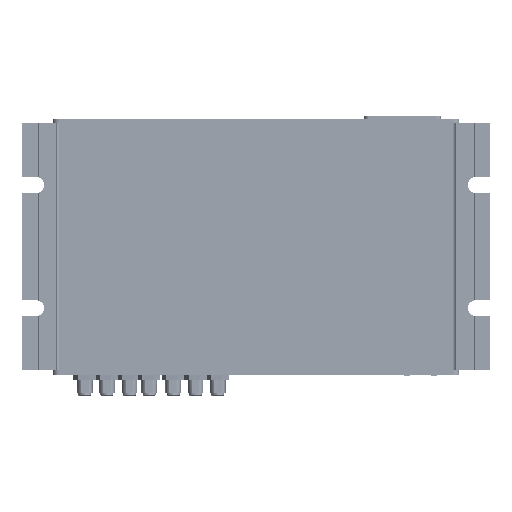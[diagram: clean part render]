
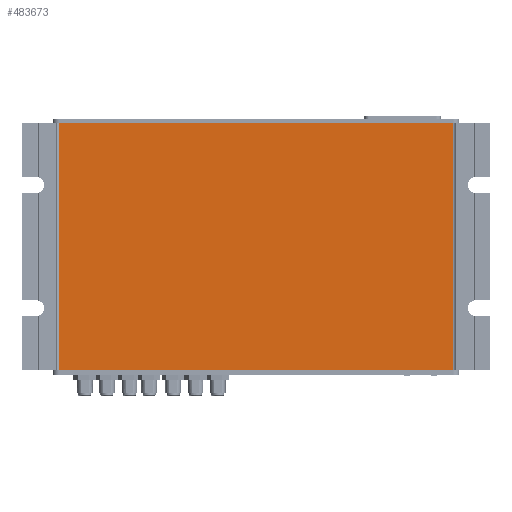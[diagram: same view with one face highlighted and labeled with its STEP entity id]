
A CAD part, front view. The second image highlights one B-rep face of the part: STEP entity #483673.
In plain terms, the highlighted planar face has unit normal (0, -1, 0).
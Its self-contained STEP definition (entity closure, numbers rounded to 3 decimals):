
#275898=VERTEX_POINT('',#594557);
#275899=VERTEX_POINT('',#594559);
#275900=VERTEX_POINT('',#594563);
#275901=VERTEX_POINT('',#594565);
#297937=VECTOR('',#522288,1.);
#297938=VECTOR('',#522292,1.);
#297939=VECTOR('',#522293,1.);
#297940=VECTOR('',#522294,1.);
#327379=LINE('',#594558,#297937);
#327380=LINE('',#594562,#297938);
#327381=LINE('',#594564,#297939);
#327382=LINE('',#594566,#297940);
#356912=EDGE_CURVE('',#275899,#275898,#327379,.T.);
#356914=EDGE_CURVE('',#275898,#275900,#327380,.T.);
#356915=EDGE_CURVE('',#275901,#275900,#327381,.T.);
#356916=EDGE_CURVE('',#275899,#275901,#327382,.T.);
#390743=ORIENTED_EDGE('',*,*,#356914,.T.);
#390744=ORIENTED_EDGE('',*,*,#356915,.F.);
#390745=ORIENTED_EDGE('',*,*,#356916,.F.);
#390746=ORIENTED_EDGE('',*,*,#356912,.T.);
#457909=EDGE_LOOP('',(#390743,#390744,#390745,#390746));
#470791=FACE_BOUND('',#457909,.T.);
#483673=ADVANCED_FACE('',(#470791),#679205,.T.);
#495730=AXIS2_PLACEMENT_3D('',#594561,#522291,$);
#522288=DIRECTION('',(0.,0.,1.));
#522291=DIRECTION('',(0.,-1.,0.));
#522292=DIRECTION('',(-1.,0.,0.));
#522293=DIRECTION('',(0.,0.,1.));
#522294=DIRECTION('',(-1.,0.,0.));
#594557=CARTESIAN_POINT('',(17.5,0.1,10.));
#594558=CARTESIAN_POINT('',(17.5,0.1,0.));
#594559=CARTESIAN_POINT('',(17.5,0.1,0.));
#594561=CARTESIAN_POINT('',(9.5,0.1,0.));
#594562=CARTESIAN_POINT('',(17.5,0.1,10.));
#594563=CARTESIAN_POINT('',(1.5,0.1,10.));
#594564=CARTESIAN_POINT('',(1.5,0.1,0.));
#594565=CARTESIAN_POINT('',(1.5,0.1,0.));
#594566=CARTESIAN_POINT('',(17.5,0.1,0.));
#679205=PLANE('',#495730);
